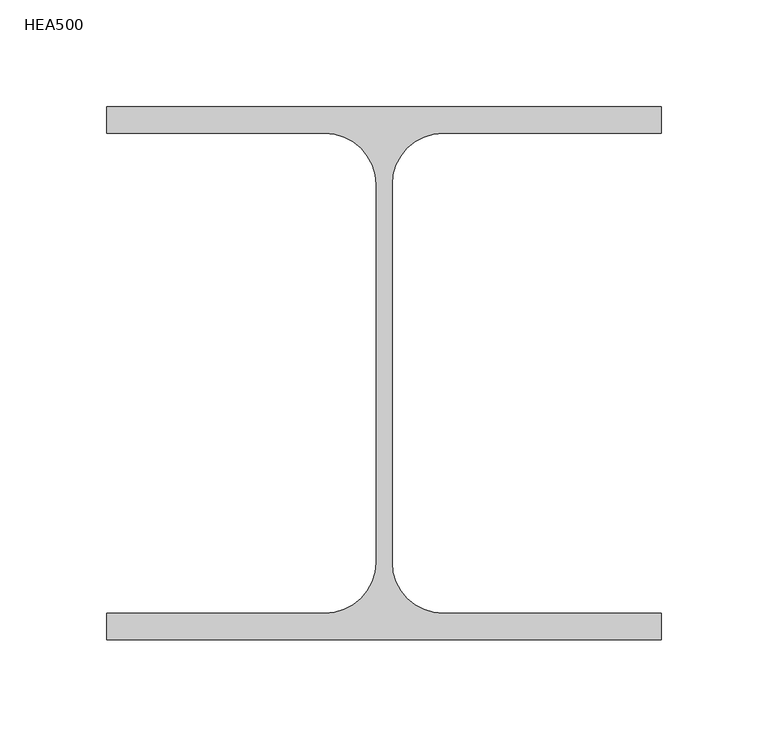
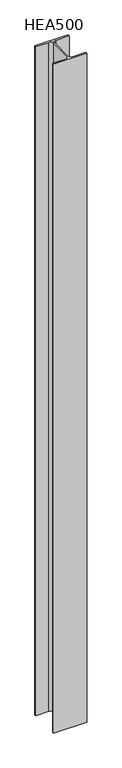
"""IFC4 building model written with IfcOpenShell, lengths in millimetres: column geometry, Poteau HE-A : HEA500."""

import ifcopenshell
import ifcopenshell.guid

model = None  # the IFC model being written
_history = None  # IfcOwnerHistory: only IFC2X3 demands one
_inside = {}  # id of a spatial element -> (the spatial element, [elements in it])
_under = {}  # id of a project, library or spatial element -> (it, [spatial elements below it])
_declared = {}  # id of a project -> (the project, [libraries it declares])
_typed = {}  # id of a type object -> (the type object, [elements of that type])
_made_of = {}  # id of a material, layer set ... -> (it, [elements and type objects made of it])


def new_model(schema):
    """Start an empty IFC model of exactly this schema.

    Asked for "IFC4X3", IfcOpenShell would pick the latest addendum, in which some entities
    have other attributes; the version numbers below select the first issue.
    IFC2X3 requires an IfcOwnerHistory on every rooted entity: one is made here for all.
    """
    global model, _history
    if schema == "IFC4X3":
        model = ifcopenshell.file(schema_version=(4, 3, 0, 0))
    else:
        model = ifcopenshell.file(schema=schema)
    _inside.clear()
    _under.clear()
    _declared.clear()
    _typed.clear()
    _made_of.clear()
    _history = None
    if model.schema == "IFC2X3":
        org = make("IfcOrganization", Name="unknown")
        user = make(
            "IfcPersonAndOrganization",
            ThePerson=make("IfcPerson", FamilyName="unknown"),
            TheOrganization=org,
        )
        app = make(
            "IfcApplication",
            ApplicationDeveloper=org,
            Version="unknown",
            ApplicationFullName="unknown",
            ApplicationIdentifier="unknown",
        )
        _history = make(
            "IfcOwnerHistory",
            OwningUser=user,
            OwningApplication=app,
            ChangeAction="ADDED",
            CreationDate=0,
        )
    return model


def make(cls, **values):
    """One entity of the class cls with the attributes given. An attribute that is None is left unset."""
    return model.create_entity(
        cls, **{name: value for name, value in values.items() if value is not None}
    )


def rooted(cls, **values):
    """An entity with a GlobalId (a new one), such as an element, a storey or a relation."""
    return make(cls, GlobalId=ifcopenshell.guid.new(), OwnerHistory=_history, **values)


def si_unit(unit_type, name, prefix=None):
    """IfcSIUnit, for example si_unit("LENGTHUNIT", "METRE", prefix="MILLI")."""
    return make("IfcSIUnit", UnitType=unit_type, Prefix=prefix, Name=name)


def assignment(units):
    """IfcUnitAssignment: the units of a project."""
    return None if units is None else make("IfcUnitAssignment", Units=units)


def point(xyz):
    """IfcCartesianPoint."""
    return None if xyz is None else make("IfcCartesianPoint", Coordinates=xyz)


def direction(xyz):
    """IfcDirection."""
    return None if xyz is None else make("IfcDirection", DirectionRatios=xyz)


def frame(location, z_axis=None, x_axis=None):
    """IfcAxis2Placement3D, a coordinate frame: its origin and axes. An axis left out is left unset."""
    return make(
        "IfcAxis2Placement3D",
        Location=point(location),
        Axis=direction(z_axis),
        RefDirection=direction(x_axis),
    )


def frame_2d(location, x_axis=None):
    """IfcAxis2Placement2D, a coordinate frame in the plane: its origin and x axis."""
    return make(
        "IfcAxis2Placement2D", Location=point(location), RefDirection=direction(x_axis)
    )


def origin():
    """The frame at (0, 0, 0) with its axes left unset."""
    return frame((0.0, 0.0, 0.0))


def origin_with_axes():
    """The frame at (0, 0, 0) with the z axis (0, 0, 1) and the x axis (1, 0, 0) written out."""
    return frame((0.0, 0.0, 0.0), z_axis=(0.0, 0.0, 1.0), x_axis=(1.0, 0.0, 0.0))


def place(relative_to, where):
    """IfcLocalPlacement: puts the frame where relative to a parent placement (None: the world)."""
    return make(
        "IfcLocalPlacement", PlacementRelTo=relative_to, RelativePlacement=where
    )


def context(
    kind, dimensions, precision=None, world=None, true_north=None, identifier=None
):
    """IfcGeometricRepresentationContext, for example the 3D "Model" context."""
    return make(
        "IfcGeometricRepresentationContext",
        ContextIdentifier=identifier,
        ContextType=kind,
        CoordinateSpaceDimension=dimensions,
        Precision=precision,
        WorldCoordinateSystem=world,
        TrueNorth=true_north,
    )


def project(units=None, contexts=None):
    """IfcProject with its units and contexts."""
    return rooted(
        "IfcProject",
        Name="project",
        RepresentationContexts=contexts,
        UnitsInContext=assignment(units),
    )


def spatial(cls, under=None, at=None, **own):
    """A site, building, storey or space (cls), placed at a placement, below another one or the project."""
    s = rooted(cls, ObjectPlacement=at, **own)
    if under is not None:
        _under.setdefault(under.id(), (under, []))[1].append(s)
    return s


def polyline(points):
    """IfcPolyline through the points."""
    return make("IfcPolyline", Points=[point(p) for p in points])


def circle_curve(where, radius):
    """IfcCircle in the frame where."""
    return make("IfcCircle", Position=where, Radius=radius)


def trimmed(basis, trim1, trim2, sense, master):
    """IfcTrimmedCurve: the piece of a basis curve between two trims."""
    return make(
        "IfcTrimmedCurve",
        BasisCurve=basis,
        Trim1=trim1,
        Trim2=trim2,
        SenseAgreement=sense,
        MasterRepresentation=master,
    )


def segment(curve, same_sense, transition):
    """IfcCompositeCurveSegment."""
    return make(
        "IfcCompositeCurveSegment",
        Transition=transition,
        SameSense=same_sense,
        ParentCurve=curve,
    )


def composite_curve(segments, self_intersect=None):
    """IfcCompositeCurve: segments joined end to end."""
    return make("IfcCompositeCurve", Segments=segments, SelfIntersect=self_intersect)


def outline(outer, holes=None, kind="AREA"):
    """IfcArbitraryClosedProfileDef: a profile drawn as a closed curve; with holes, ...WithVoids."""
    if holes is None:
        return make("IfcArbitraryClosedProfileDef", ProfileType=kind, OuterCurve=outer)
    return make(
        "IfcArbitraryProfileDefWithVoids",
        ProfileType=kind,
        OuterCurve=outer,
        InnerCurves=holes,
    )


def extrude(swept, where, along, depth):
    """IfcExtrudedAreaSolid: the profile swept, set in the frame where, extruded along a direction by depth."""
    return make(
        "IfcExtrudedAreaSolid",
        SweptArea=swept,
        Position=where,
        ExtrudedDirection=direction(along),
        Depth=depth,
    )


def shape(context_of_items, identifier, shape_type, items):
    """IfcShapeRepresentation: the items that make up one representation, for example the "Body"."""
    return make(
        "IfcShapeRepresentation",
        ContextOfItems=context_of_items,
        RepresentationIdentifier=identifier,
        RepresentationType=shape_type,
        Items=items,
    )


def source(mapping_origin, context_of_items, identifier, shape_type, items):
    """IfcRepresentationMap: a shape defined once, which mapped items show again and again."""
    return make(
        "IfcRepresentationMap",
        MappingOrigin=mapping_origin,
        MappedRepresentation=shape(context_of_items, identifier, shape_type, items),
    )


def transform(
    local_origin,
    x_axis=None,
    y_axis=None,
    z_axis=None,
    scale=None,
    scale2=None,
    scale3=None,
    uniform=True,
):
    """IfcCartesianTransformationOperator3D, or its non-uniform kind. x_axis, y_axis, z_axis: its Axis1, 2, 3."""
    if uniform:
        return make(
            "IfcCartesianTransformationOperator3D",
            Axis1=direction(x_axis),
            Axis2=direction(y_axis),
            LocalOrigin=point(local_origin),
            Scale=scale,
            Axis3=direction(z_axis),
        )
    return make(
        "IfcCartesianTransformationOperator3DnonUniform",
        Axis1=direction(x_axis),
        Axis2=direction(y_axis),
        LocalOrigin=point(local_origin),
        Scale=scale,
        Axis3=direction(z_axis),
        Scale2=scale2,
        Scale3=scale3,
    )


def mapped(mapping_source, mapping_target):
    """IfcMappedItem: shows the shape of a source again, moved by a transform."""
    return make(
        "IfcMappedItem", MappingSource=mapping_source, MappingTarget=mapping_target
    )


def made_of(thing, what):
    """Note that an element or type object is made of a material, layer set ...; save() writes the relation."""
    if what is not None:
        _made_of.setdefault(what.id(), (what, []))[1].append(thing)
    return thing


def element(
    cls,
    number,
    at=None,
    inside=None,
    cuts=None,
    type_object=None,
    material=None,
    context=None,
    identifier="Body",
    shape_type=None,
    held_by="IfcProductDefinitionShape",
    body=None,
    shapes=None,
    **own,
):
    """One element of the class cls, such as IfcWall. Its Tag is "e" and its number.

    at: its placement. inside: the storey or other place that contains it. cuts: it is an
    opening in that element (IfcRelVoidsElement). A single representation is given by context,
    identifier, shape_type and body (its items); several are given by shapes. held_by: the class
    of the entity that holds the representations. save() writes the other relations.
    """
    e = rooted(cls, Tag="e%d" % number, ObjectPlacement=at, **own)
    if body is not None:
        shapes = [shape(context, identifier, shape_type, body)]
    if shapes is not None:
        e.Representation = make(held_by, Representations=shapes)
    if inside is not None:
        _inside.setdefault(inside.id(), (inside, []))[1].append(e)
    if cuts is not None:
        rooted(
            "IfcRelVoidsElement", RelatingBuildingElement=cuts, RelatedOpeningElement=e
        )
    if type_object is not None:
        _typed.setdefault(type_object.id(), (type_object, []))[1].append(e)
    return made_of(e, material)


def aggregate(whole, parts):
    """IfcRelAggregates: a whole, such as a stair, and the parts it consists of."""
    return rooted("IfcRelAggregates", RelatingObject=whole, RelatedObjects=parts)


def save(model, path):
    """Write the relations noted so far, then the file.

    IfcRelAggregates (storeys below a building ...), IfcRelContainedInSpatialStructure (elements
    in a storey), IfcRelDefinesByType, IfcRelAssociatesMaterial and IfcRelDeclares: one each for
    every whole, place, type object, material and project.
    """
    for whole, parts in _under.values():
        aggregate(whole, parts)
    for where, things in _inside.values():
        rooted(
            "IfcRelContainedInSpatialStructure",
            RelatedElements=things,
            RelatingStructure=where,
        )
    for kind, things in _typed.values():
        rooted("IfcRelDefinesByType", RelatedObjects=things, RelatingType=kind)
    for what, things in _made_of.values():
        rooted("IfcRelAssociatesMaterial", RelatedObjects=things, RelatingMaterial=what)
    for by, libraries in _declared.values():
        rooted("IfcRelDeclares", RelatingContext=by, RelatedDefinitions=libraries)
    model.write(path)


def hea500_374ea02b(model_context):
    return source(origin(), model_context, "Body", "SweptSolid", [
        extrude(outline(composite_curve([segment(polyline([(130.0, 125.0), (130.0, 112.5), (27.75, 112.5)]), True, "CONTINUOUS"), segment(trimmed(circle_curve(frame_2d((27.75, 88.5)), 24.0), [point((27.75, 112.5))], [point((3.75, 88.5))], True, "CARTESIAN"), True, "CONTINUOUS"), segment(polyline([(3.75, 88.5), (3.75, -88.5)]), True, "CONTINUOUS"), segment(trimmed(circle_curve(frame_2d((27.75, -88.5)), 24.0), [point((3.75, -88.5))], [point((27.75, -112.5))], True, "CARTESIAN"), True, "CONTINUOUS"), segment(polyline([(27.75, -112.5), (130.0, -112.5), (130.0, -125.0), (-130.0, -125.0), (-130.0, -112.5), (-27.75, -112.5)]), True, "CONTINUOUS"), segment(trimmed(circle_curve(frame_2d((-27.75, -88.5)), 24.0), [point((-27.75, -112.5))], [point((-3.75, -88.5))], True, "CARTESIAN"), True, "CONTINUOUS"), segment(polyline([(-3.75, -88.5), (-3.75, 88.5)]), True, "CONTINUOUS"), segment(trimmed(circle_curve(frame_2d((-27.75, 88.5)), 24.0), [point((-3.75, 88.5))], [point((-27.75, 112.5))], True, "CARTESIAN"), True, "CONTINUOUS"), segment(polyline([(-27.75, 112.5), (-130.0, 112.5), (-130.0, 125.0), (130.0, 125.0)]), True, "CONTINUOUS")], self_intersect=False)), origin_with_axes(), (0.0, 0.0, 1.0), 5500.0),
    ])


if __name__ == "__main__":
    model = new_model("IFC4")
    model_context = context("Model", 3, world=origin())
    ifc_project = project(units=[si_unit("LENGTHUNIT", "METRE", prefix="MILLI")], contexts=[model_context])
    site = spatial("IfcSite", under=ifc_project)
    building = spatial("IfcBuilding", under=site)
    placement = place(None, origin())
    hea500_shape = hea500_374ea02b(model_context)
    element("IfcColumn", 1, ObjectType="Poteau HE-A : HEA500", at=placement, inside=building, context=model_context, shape_type="MappedRepresentation", body=[
        mapped(hea500_shape, transform((0.0, 0.0, 0.0), x_axis=(1.0, 0.0, 0.0), y_axis=(0.0, 1.0, 0.0), z_axis=(0.0, 0.0, 1.0))),
    ])
    save(model, "model.ifc")
